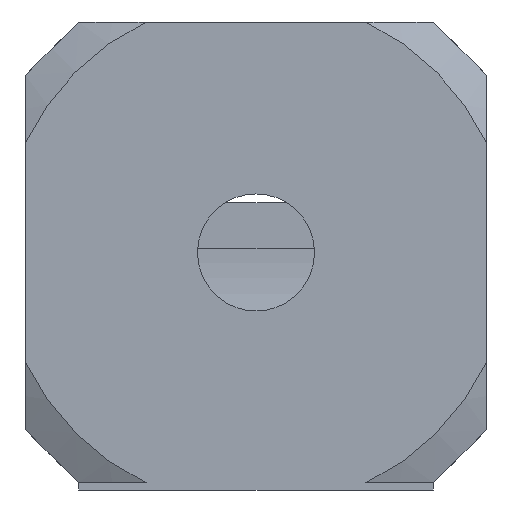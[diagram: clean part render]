
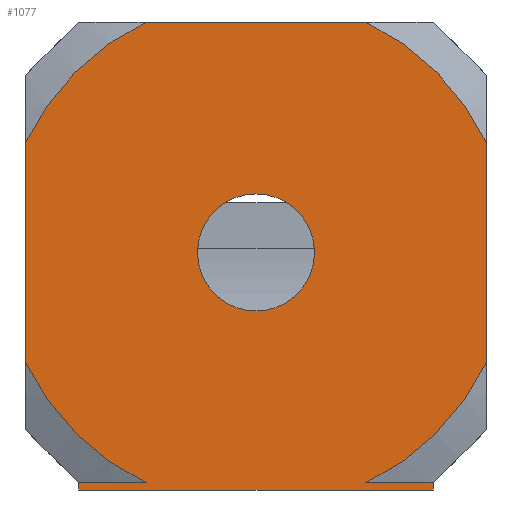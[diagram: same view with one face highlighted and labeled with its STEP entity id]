
A CAD part, front view. The second image highlights one B-rep face of the part: STEP entity #1077.
In plain terms, the highlighted planar face has unit normal (0, -1, 0).
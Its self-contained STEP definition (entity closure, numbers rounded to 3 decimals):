
#18 = LINE ( 'NONE', #863, #558 ) ;
#35 = DIRECTION ( 'NONE',  ( -1., 0., 0. ) ) ;
#44 = VECTOR ( 'NONE', #730, 1000. ) ;
#51 = ORIENTED_EDGE ( 'NONE', *, *, #642, .T. ) ;
#65 = DIRECTION ( 'NONE',  ( 0., -1., 0. ) ) ;
#70 = ORIENTED_EDGE ( 'NONE', *, *, #609, .T. ) ;
#76 = ORIENTED_EDGE ( 'NONE', *, *, #179, .T. ) ;
#81 = CIRCLE ( 'NONE', #375, 7.2 ) ;
#92 = EDGE_CURVE ( 'NONE', #160, #102, #337, .T. ) ;
#102 = VERTEX_POINT ( 'NONE', #585 ) ;
#111 = CARTESIAN_POINT ( 'NONE',  ( 5., 0., -6.7 ) ) ;
#128 = CIRCLE ( 'NONE', #478, 1.65 ) ;
#149 = VECTOR ( 'NONE', #485, 1000. ) ;
#152 = CARTESIAN_POINT ( 'NONE',  ( 0., 0., 0. ) ) ;
#160 = VERTEX_POINT ( 'NONE', #386 ) ;
#172 = EDGE_CURVE ( 'NONE', #1153, #893, #212, .T. ) ;
#178 = CARTESIAN_POINT ( 'NONE',  ( 0., 0., -6.5 ) ) ;
#179 = EDGE_CURVE ( 'NONE', #838, #824, #81, .T. ) ;
#187 = VECTOR ( 'NONE', #398, 1000. ) ;
#206 = CARTESIAN_POINT ( 'NONE',  ( 0., 0., 6.5 ) ) ;
#212 = LINE ( 'NONE', #494, #187 ) ;
#227 = AXIS2_PLACEMENT_3D ( 'NONE', #580, #378, #845 ) ;
#229 = CIRCLE ( 'NONE', #560, 7.2 ) ;
#243 = VERTEX_POINT ( 'NONE', #889 ) ;
#264 = VECTOR ( 'NONE', #347, 1000. ) ;
#270 = ORIENTED_EDGE ( 'NONE', *, *, #658, .T. ) ;
#322 = ORIENTED_EDGE ( 'NONE', *, *, #172, .T. ) ;
#331 = EDGE_CURVE ( 'NONE', #893, #826, #362, .T. ) ;
#337 = CIRCLE ( 'NONE', #833, 7.2 ) ;
#340 = VECTOR ( 'NONE', #351, 1000. ) ;
#342 = DIRECTION ( 'NONE',  ( 0., 0., 1. ) ) ;
#344 = EDGE_CURVE ( 'NONE', #1209, #838, #939, .T. ) ;
#347 = DIRECTION ( 'NONE',  ( 0., 0., 1. ) ) ;
#351 = DIRECTION ( 'NONE',  ( 0., 0., -1. ) ) ;
#352 = EDGE_LOOP ( 'NONE', ( #871, #844 ) ) ;
#362 = LINE ( 'NONE', #1031, #579 ) ;
#375 = AXIS2_PLACEMENT_3D ( 'NONE', #784, #535, #342 ) ;
#378 = DIRECTION ( 'NONE',  ( 0., -1., 0. ) ) ;
#386 = CARTESIAN_POINT ( 'NONE',  ( 3.097, 0., -6.5 ) ) ;
#387 = EDGE_CURVE ( 'NONE', #243, #1009, #1028, .T. ) ;
#398 = DIRECTION ( 'NONE',  ( 0., 0., -1. ) ) ;
#402 = DIRECTION ( 'NONE',  ( 0., -1., 0. ) ) ;
#403 = VERTEX_POINT ( 'NONE', #562 ) ;
#418 = ORIENTED_EDGE ( 'NONE', *, *, #344, .T. ) ;
#429 = CARTESIAN_POINT ( 'NONE',  ( -3.097, 0., -6.5 ) ) ;
#444 = FACE_OUTER_BOUND ( 'NONE', #818, .T. ) ;
#454 = CIRCLE ( 'NONE', #227, 7.2 ) ;
#458 = EDGE_CURVE ( 'NONE', #805, #160, #643, .T. ) ;
#473 = CARTESIAN_POINT ( 'NONE',  ( -6.5, 0., -3.097 ) ) ;
#478 = AXIS2_PLACEMENT_3D ( 'NONE', #152, #815, #997 ) ;
#485 = DIRECTION ( 'NONE',  ( -1., 0., 0. ) ) ;
#494 = CARTESIAN_POINT ( 'NONE',  ( -5., 0., 0. ) ) ;
#517 = AXIS2_PLACEMENT_3D ( 'NONE', #750, #848, #634 ) ;
#519 = PLANE ( 'NONE',  #1049 ) ;
#523 = DIRECTION ( 'NONE',  ( 0., 0., -1. ) ) ;
#535 = DIRECTION ( 'NONE',  ( 0., -1., 0. ) ) ;
#538 = ORIENTED_EDGE ( 'NONE', *, *, #935, .T. ) ;
#558 = VECTOR ( 'NONE', #1057, 1000. ) ;
#560 = AXIS2_PLACEMENT_3D ( 'NONE', #1078, #402, #35 ) ;
#562 = CARTESIAN_POINT ( 'NONE',  ( 6.5, 0., 3.097 ) ) ;
#573 = CARTESIAN_POINT ( 'NONE',  ( -5., 0., -6.5 ) ) ;
#579 = VECTOR ( 'NONE', #747, 1000. ) ;
#580 = CARTESIAN_POINT ( 'NONE',  ( 0., 0., 0. ) ) ;
#585 = CARTESIAN_POINT ( 'NONE',  ( 6.5, 0., -3.097 ) ) ;
#609 = EDGE_CURVE ( 'NONE', #824, #1153, #18, .T. ) ;
#634 = DIRECTION ( 'NONE',  ( 0., 0., 1. ) ) ;
#641 = CARTESIAN_POINT ( 'NONE',  ( -6.5, 0., 3.097 ) ) ;
#642 = EDGE_CURVE ( 'NONE', #403, #659, #454, .T. ) ;
#643 = LINE ( 'NONE', #178, #1150 ) ;
#658 = EDGE_CURVE ( 'NONE', #659, #783, #768, .T. ) ;
#659 = VERTEX_POINT ( 'NONE', #660 ) ;
#660 = CARTESIAN_POINT ( 'NONE',  ( 3.097, 0., 6.5 ) ) ;
#672 = EDGE_CURVE ( 'NONE', #805, #826, #1201, .T. ) ;
#693 = DIRECTION ( 'NONE',  ( 0., 0., 1. ) ) ;
#730 = DIRECTION ( 'NONE',  ( 0., 0., -1. ) ) ;
#731 = LINE ( 'NONE', #821, #264 ) ;
#745 = ORIENTED_EDGE ( 'NONE', *, *, #331, .T. ) ;
#747 = DIRECTION ( 'NONE',  ( 1., 0., 0. ) ) ;
#750 = CARTESIAN_POINT ( 'NONE',  ( 0., 0., 0. ) ) ;
#768 = LINE ( 'NONE', #206, #149 ) ;
#783 = VERTEX_POINT ( 'NONE', #1085 ) ;
#784 = CARTESIAN_POINT ( 'NONE',  ( 0., 0., 0. ) ) ;
#802 = ORIENTED_EDGE ( 'NONE', *, *, #458, .T. ) ;
#803 = EDGE_CURVE ( 'NONE', #102, #403, #731, .T. ) ;
#805 = VERTEX_POINT ( 'NONE', #1205 ) ;
#815 = DIRECTION ( 'NONE',  ( 0., 1., 0. ) ) ;
#818 = EDGE_LOOP ( 'NONE', ( #538, #418, #76, #70, #322, #745, #1124, #802, #1165, #1131, #51, #270 ) ) ;
#821 = CARTESIAN_POINT ( 'NONE',  ( 6.5, 0., 0. ) ) ;
#824 = VERTEX_POINT ( 'NONE', #429 ) ;
#825 = CARTESIAN_POINT ( 'NONE',  ( 5., 0., 0. ) ) ;
#826 = VERTEX_POINT ( 'NONE', #111 ) ;
#827 = FACE_BOUND ( 'NONE', #352, .T. ) ;
#833 = AXIS2_PLACEMENT_3D ( 'NONE', #1055, #1159, #693 ) ;
#836 = DIRECTION ( 'NONE',  ( -1., 0., 0. ) ) ;
#838 = VERTEX_POINT ( 'NONE', #473 ) ;
#841 = CARTESIAN_POINT ( 'NONE',  ( -6.5, 0., 0. ) ) ;
#844 = ORIENTED_EDGE ( 'NONE', *, *, #387, .T. ) ;
#845 = DIRECTION ( 'NONE',  ( 0., 0., 1. ) ) ;
#848 = DIRECTION ( 'NONE',  ( 0., 1., 0. ) ) ;
#863 = CARTESIAN_POINT ( 'NONE',  ( 0., 0., -6.5 ) ) ;
#871 = ORIENTED_EDGE ( 'NONE', *, *, #1114, .T. ) ;
#889 = CARTESIAN_POINT ( 'NONE',  ( 0., 0., -1.65 ) ) ;
#893 = VERTEX_POINT ( 'NONE', #1033 ) ;
#900 = CARTESIAN_POINT ( 'NONE',  ( 0., 0., 0. ) ) ;
#935 = EDGE_CURVE ( 'NONE', #783, #1209, #229, .T. ) ;
#939 = LINE ( 'NONE', #841, #44 ) ;
#980 = CARTESIAN_POINT ( 'NONE',  ( 0., 0., 1.65 ) ) ;
#997 = DIRECTION ( 'NONE',  ( 0., 0., 1. ) ) ;
#1009 = VERTEX_POINT ( 'NONE', #980 ) ;
#1028 = CIRCLE ( 'NONE', #517, 1.65 ) ;
#1031 = CARTESIAN_POINT ( 'NONE',  ( 0., 0., -6.7 ) ) ;
#1033 = CARTESIAN_POINT ( 'NONE',  ( -5., 0., -6.7 ) ) ;
#1049 = AXIS2_PLACEMENT_3D ( 'NONE', #900, #65, #523 ) ;
#1055 = CARTESIAN_POINT ( 'NONE',  ( 0., 0., 0. ) ) ;
#1057 = DIRECTION ( 'NONE',  ( -1., 0., 0. ) ) ;
#1077 = ADVANCED_FACE ( 'NONE', ( #444, #827 ), #519, .T. ) ;
#1078 = CARTESIAN_POINT ( 'NONE',  ( 0., 0., 0. ) ) ;
#1085 = CARTESIAN_POINT ( 'NONE',  ( -3.097, 0., 6.5 ) ) ;
#1114 = EDGE_CURVE ( 'NONE', #1009, #243, #128, .T. ) ;
#1124 = ORIENTED_EDGE ( 'NONE', *, *, #672, .F. ) ;
#1131 = ORIENTED_EDGE ( 'NONE', *, *, #803, .T. ) ;
#1150 = VECTOR ( 'NONE', #836, 1000. ) ;
#1153 = VERTEX_POINT ( 'NONE', #573 ) ;
#1159 = DIRECTION ( 'NONE',  ( 0., -1., 0. ) ) ;
#1165 = ORIENTED_EDGE ( 'NONE', *, *, #92, .T. ) ;
#1201 = LINE ( 'NONE', #825, #340 ) ;
#1205 = CARTESIAN_POINT ( 'NONE',  ( 5., 0., -6.5 ) ) ;
#1209 = VERTEX_POINT ( 'NONE', #641 ) ;
